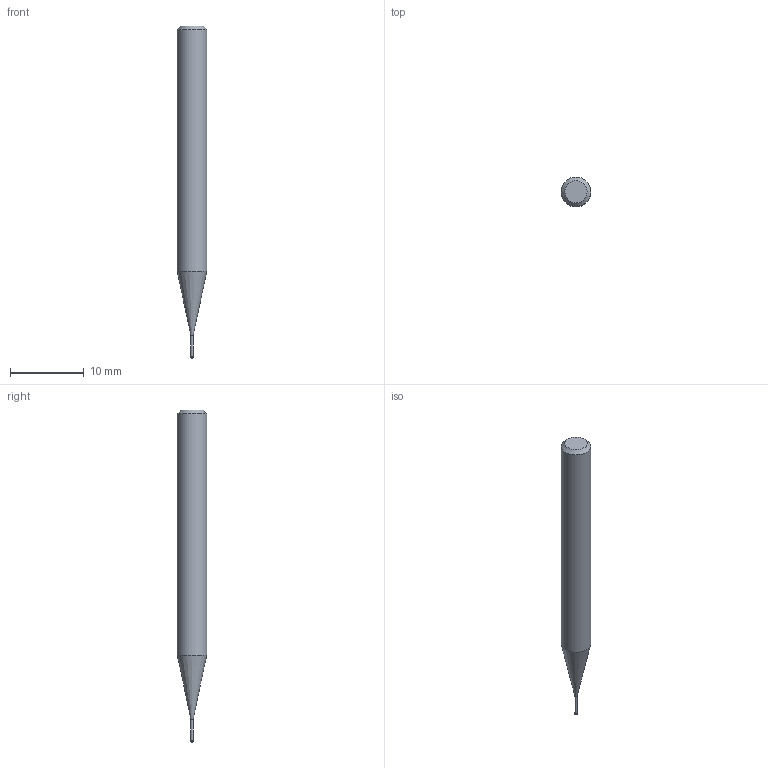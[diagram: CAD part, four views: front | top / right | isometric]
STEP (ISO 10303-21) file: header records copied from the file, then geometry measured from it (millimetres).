
FILE_DESCRIPTION((''),'2;1');
FILE_NAME('C:\Users\nsx150\AppData\Local\Temp\Mastercam 2021\3SYKECWX22\TEMP.step','2021-04-22T09:44:32',(''),(''),'STEP Write','Mastercam 2021 ... CNC Software, Inc.','');
FILE_SCHEMA(('AUTOMOTIVE_DESIGN'));
Length unit declared in the file: millimetre
Products named in the file (1): None
Bounding box: 4 x 4 x 45 mm (x, y, z)
Volume: 456 mm3; surface area: 489.4 mm2
Topology: 2 solids, 2 shells, 10 faces, 14 edges, 8 vertices
Faces by surface type: plane 4, cylinder 3, cone 2, torus 1
Full cylindrical faces by diameter (mm): 0.28 x1, 0.3 x1, 4 x1
Entity records: 232 total; most frequent: DIRECTION 40, CARTESIAN_POINT 28, AXIS2_PLACEMENT_3D 20, ORIENTED_EDGE 16, EDGE_LOOP 16, STYLED_ITEM 13, ADVANCED_FACE 10, FACE_BOUND 10
